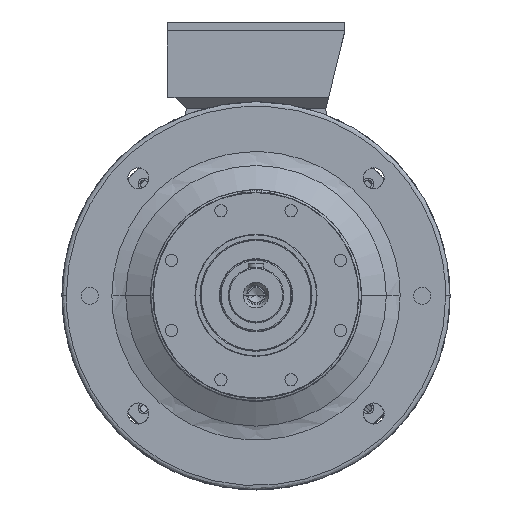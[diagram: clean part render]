
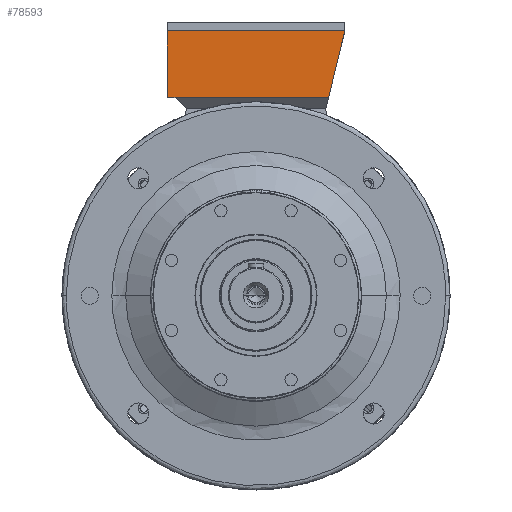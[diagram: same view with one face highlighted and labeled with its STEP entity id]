
A CAD part, top view. The second image highlights one B-rep face of the part: STEP entity #78593.
In plain terms, the highlighted planar face has unit normal (0, 0, 1) as drawn and (0, 0, -1) by its records, which use the part's own axes.
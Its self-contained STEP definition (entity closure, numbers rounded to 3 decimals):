
#2791 = FACE_OUTER_BOUND ( 'NONE', #54182, .T. ) ;
#7428 = CARTESIAN_POINT ( 'NONE',  ( 80., 70., 0. ) ) ;
#7436 = CARTESIAN_POINT ( 'NONE',  ( 73., 10., 0. ) ) ;
#7438 = CARTESIAN_POINT ( 'NONE',  ( -65.429, 10., 0. ) ) ;
#7439 = CARTESIAN_POINT ( 'NONE',  ( -80., 70., 0. ) ) ;
#7441 = CARTESIAN_POINT ( 'NONE',  ( 80., 10., 0. ) ) ;
#13665 = ORIENTED_EDGE ( 'NONE', *, *, #22660, .T. ) ;
#13678 = ORIENTED_EDGE ( 'NONE', *, *, #25920, .T. ) ;
#13696 = ORIENTED_EDGE ( 'NONE', *, *, #26022, .T. ) ;
#13700 = ORIENTED_EDGE ( 'NONE', *, *, #26151, .T. ) ;
#13777 = ORIENTED_EDGE ( 'NONE', *, *, #26154, .T. ) ;
#15379 = DIRECTION ( 'NONE',  ( 0., -1., 0. ) ) ;
#15406 = CARTESIAN_POINT ( 'NONE',  ( 80., 10., 0. ) ) ;
#16334 = CARTESIAN_POINT ( 'NONE',  ( -80., 70., 0. ) ) ;
#16422 = DIRECTION ( 'NONE',  ( 1., 0., 0. ) ) ;
#16429 = DIRECTION ( 'NONE',  ( -0.236, 0.972, 0. ) ) ;
#16443 = CARTESIAN_POINT ( 'NONE',  ( -63., 0., 0. ) ) ;
#20414 = DIRECTION ( 'NONE',  ( -1., 0., 0. ) ) ;
#20447 = CARTESIAN_POINT ( 'NONE',  ( -80., 70., 0. ) ) ;
#20476 = PLANE ( 'NONE',  #36573 ) ;
#20493 = DIRECTION ( 'NONE',  ( 0., 0., -1. ) ) ;
#22660 = EDGE_CURVE ( 'NONE', #55773, #55769, #67703, .T. ) ;
#25920 = EDGE_CURVE ( 'NONE', #55769, #55669, #77299, .T. ) ;
#26022 = EDGE_CURVE ( 'NONE', #55685, #55773, #77362, .T. ) ;
#26151 = EDGE_CURVE ( 'NONE', #55687, #55685, #77454, .T. ) ;
#26154 = EDGE_CURVE ( 'NONE', #55669, #55687, #77447, .T. ) ;
#29315 = CARTESIAN_POINT ( 'NONE',  ( -80., 10., 0. ) ) ;
#29318 = DIRECTION ( 'NONE',  ( -1., 0., 0. ) ) ;
#36573 = AXIS2_PLACEMENT_3D ( 'NONE', #20447, #20493, #20414 ) ;
#54182 = EDGE_LOOP ( 'NONE', ( #13678, #13777, #13700, #13696, #13665 ) ) ;
#55669 = VERTEX_POINT ( 'NONE', #7438 ) ;
#55685 = VERTEX_POINT ( 'NONE', #7428 ) ;
#55687 = VERTEX_POINT ( 'NONE', #7439 ) ;
#55769 = VERTEX_POINT ( 'NONE', #7436 ) ;
#55773 = VERTEX_POINT ( 'NONE', #7441 ) ;
#67703 = LINE ( 'NONE', #106906, #67778 ) ;
#67778 = VECTOR ( 'NONE', #106941, 1000. ) ;
#77299 = LINE ( 'NONE', #29315, #77300 ) ;
#77300 = VECTOR ( 'NONE', #29318, 1000. ) ;
#77362 = LINE ( 'NONE', #15406, #77373 ) ;
#77373 = VECTOR ( 'NONE', #15379, 1000. ) ;
#77427 = VECTOR ( 'NONE', #16422, 1000. ) ;
#77447 = LINE ( 'NONE', #16443, #77469 ) ;
#77454 = LINE ( 'NONE', #16334, #77427 ) ;
#77469 = VECTOR ( 'NONE', #16429, 1000. ) ;
#78593 = ADVANCED_FACE ( 'NONE', ( #2791 ), #20476, .T. ) ;
#106906 = CARTESIAN_POINT ( 'NONE',  ( -80., 10., 0. ) ) ;
#106941 = DIRECTION ( 'NONE',  ( -1., 0., 0. ) ) ;
